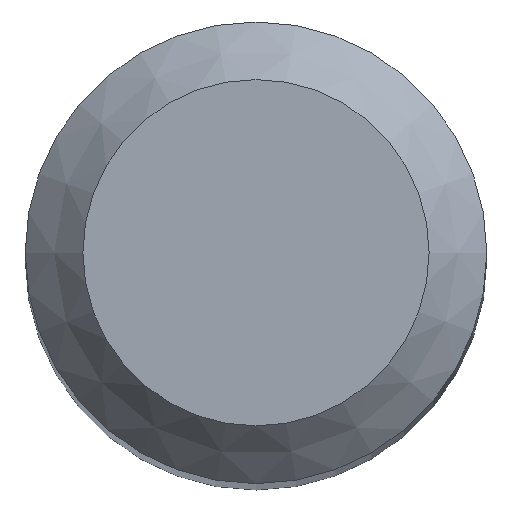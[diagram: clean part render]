
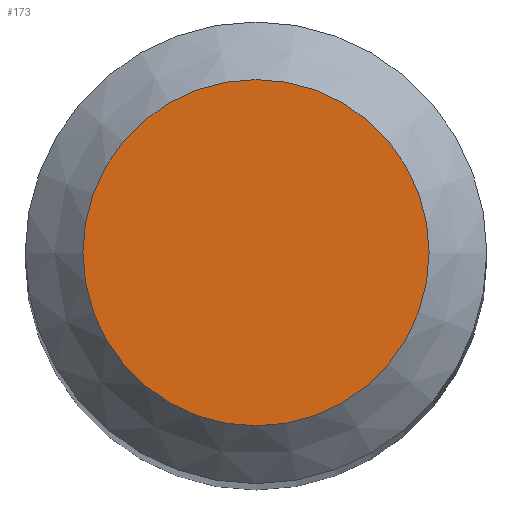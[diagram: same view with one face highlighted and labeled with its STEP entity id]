
A CAD part, top view. The second image highlights one B-rep face of the part: STEP entity #173.
In plain terms, the highlighted planar face has unit normal (0, 0, 1).
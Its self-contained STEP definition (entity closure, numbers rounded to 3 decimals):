
#153=CARTESIAN_POINT('',(-1.5,0.,45.0));
#154=VERTEX_POINT('',#153);
#155=CARTESIAN_POINT('',(0.0,0.,45.0));
#156=DIRECTION('',(0.0,0.0,-1.0));
#157=DIRECTION('',(-1.0,0.0,0.0));
#158=AXIS2_PLACEMENT_3D('',#155,#156,#157);
#159=CIRCLE('',#158,1.5);
#160=EDGE_CURVE('',#154,#154,#159,.T.);
#165=CARTESIAN_POINT('',(0.0,0.,45.0));
#166=DIRECTION('',(0.0,0.0,-1.0));
#167=DIRECTION('',(-1.0,0.0,0.0));
#168=AXIS2_PLACEMENT_3D('',#165,#166,#167);
#169=PLANE('',#168);
#170=ORIENTED_EDGE('',*,*,#160,.F.);
#171=EDGE_LOOP('',(#170));
#172=FACE_OUTER_BOUND('',#171,.T.);
#173=ADVANCED_FACE('',(#172),#169,.F.);
